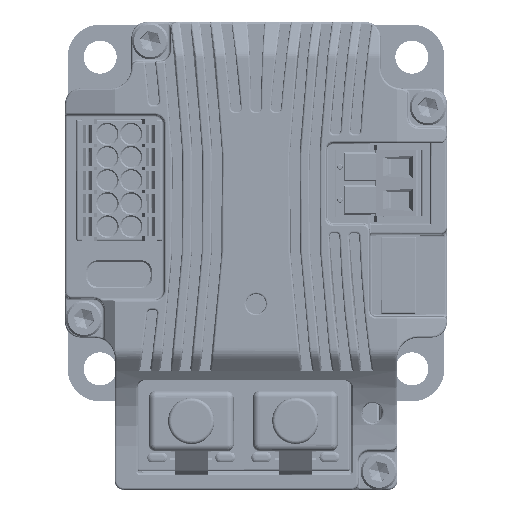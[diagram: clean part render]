
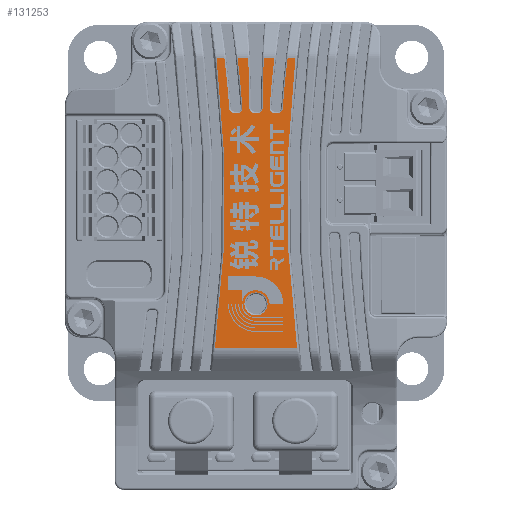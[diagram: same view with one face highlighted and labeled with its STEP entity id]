
A CAD part, front view. The second image highlights one B-rep face of the part: STEP entity #131253.
In plain terms, the highlighted planar face has unit normal (0, 1, 0).
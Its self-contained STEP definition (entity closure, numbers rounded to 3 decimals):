
#107804=DIRECTION('',(1.,0.,
0.));
#107805=VECTOR('',#107804,12.433);
#107806=CARTESIAN_POINT('',(22.283,-97.5,
-48.974));
#107807=LINE('',#107806,#107805);
#107904=DIRECTION('',(-1.,0.,0.));
#107905=VECTOR('',#107904,1.181);
#107906=CARTESIAN_POINT('',(34.451,-97.5,-5.133));
#107907=LINE('',#107906,#107905);
#108036=DIRECTION('',(-1.,0.,
0.));
#108037=VECTOR('',#108036,1.592);
#108038=CARTESIAN_POINT('',(31.273,-97.5,-5.133));
#108039=LINE('',#108038,#108037);
#108148=DIRECTION('',(-1.,0.,
0.));
#108149=VECTOR('',#108148,1.592);
#108150=CARTESIAN_POINT('',(27.319,-97.5,-5.133));
#108151=LINE('',#108150,#108149);
#108291=DIRECTION('',(-1.,0.,0.));
#108292=VECTOR('',#108291,1.181);
#108293=CARTESIAN_POINT('',(23.73,-97.5,-5.133));
#108294=LINE('',#108293,#108292);
#108331=CARTESIAN_POINT('',(208.505,-97.5,-26.003));
#108332=DIRECTION('',(0.,1.,0.));
#108333=DIRECTION('',(-0.997,0.,0.075));
#108334=AXIS2_PLACEMENT_3D('',#108331,#108332,#108333);
#108339=CARTESIAN_POINT('',(207.456,-97.5,-13.153));
#108340=DIRECTION('',(0.,-1.,0.));
#108341=DIRECTION('',(-0.999,0.,0.045));
#108342=AXIS2_PLACEMENT_3D('',#108339,#108340,#108341);
#108347=CARTESIAN_POINT('',(28.751,-97.5,-12.651));
#108348=DIRECTION('',(0.,1.,0.));
#108349=DIRECTION('',(1.,0.,-0.003));
#108350=AXIS2_PLACEMENT_3D('',#108347,#108348,#108349);
#108355=CARTESIAN_POINT('',(28.249,-97.5,-12.651));
#108356=DIRECTION('',(0.,1.,0.));
#108357=DIRECTION('',(0.,0.,-1.));
#108358=AXIS2_PLACEMENT_3D('',#108355,#108356,#108357);
#108363=CARTESIAN_POINT('',(-150.456,-97.5,-13.149));
#108364=DIRECTION('',(0.,-1.,0.));
#108365=DIRECTION('',(1.,0.,0.003));
#108366=AXIS2_PLACEMENT_3D('',#108363,#108364,#108365);
#108371=CARTESIAN_POINT('',(-151.505,-97.5,-25.999));
#108372=DIRECTION('',(0.,1.,0.));
#108373=DIRECTION('',(0.993,0.,0.117));
#108374=AXIS2_PLACEMENT_3D('',#108371,#108372,#108373);
#108379=CARTESIAN_POINT('',(25.699,-97.5,-12.651));
#108380=DIRECTION('',(0.,1.,0.));
#108381=DIRECTION('',(0.997,0.,0.075));
#108382=AXIS2_PLACEMENT_3D('',#108379,#108380,#108381);
#108387=CARTESIAN_POINT('',(25.214,-97.5,-12.651));
#108388=DIRECTION('',(0.,1.,0.));
#108389=DIRECTION('',(0.,0.,-1.));
#108390=AXIS2_PLACEMENT_3D('',#108387,#108388,#108389);
#108395=CARTESIAN_POINT('',(-151.505,-97.5,-25.999));
#108396=DIRECTION('',(0.,-1.,0.));
#108397=DIRECTION('',(0.997,0.,0.075));
#108398=AXIS2_PLACEMENT_3D('',#108395,#108396,#108397);
#108403=CARTESIAN_POINT('',(-151.505,-97.5,-25.999));
#108404=DIRECTION('',(0.,1.,0.));
#108405=DIRECTION('',(0.993,0.,0.119));
#108406=AXIS2_PLACEMENT_3D('',#108403,#108404,#108405);
#108411=CARTESIAN_POINT('',(208.505,-97.5,-26.003));
#108412=DIRECTION('',(0.,1.,0.));
#108413=DIRECTION('',(-0.991,0.,-0.131));
#108414=AXIS2_PLACEMENT_3D('',#108411,#108412,#108413);
#108419=CARTESIAN_POINT('',(208.505,-97.5,-26.003));
#108420=DIRECTION('',(0.,-1.,0.));
#108421=DIRECTION('',(-0.993,0.,0.118));
#108422=AXIS2_PLACEMENT_3D('',#108419,#108420,#108421);
#108427=CARTESIAN_POINT('',(31.786,-97.5,-12.651));
#108428=DIRECTION('',(0.,1.,0.));
#108429=DIRECTION('',(0.997,0.,-0.075));
#108430=AXIS2_PLACEMENT_3D('',#108427,#108428,#108429);
#108435=CARTESIAN_POINT('',(31.301,-97.5,-12.651));
#108436=DIRECTION('',(0.,1.,0.));
#108437=DIRECTION('',(0.,0.,-1.));
#108438=AXIS2_PLACEMENT_3D('',#108435,#108436,#108437);
#108443=CARTESIAN_POINT('',(28.5,-97.5,-42.252));
#108444=DIRECTION('',(0.,1.,0.));
#108445=DIRECTION('',(0.,0.,1.));
#108446=AXIS2_PLACEMENT_3D('',#108443,#108444,#108445);
#108451=CARTESIAN_POINT('',(28.5,-97.5,-42.252));
#108452=DIRECTION('',(0.,1.,0.));
#108453=DIRECTION('',(0.,0.,-1.));
#108454=AXIS2_PLACEMENT_3D('',#108451,#108452,#108453);
#108506=DIRECTION('',(-1.,0.,0.));
#108507=VECTOR('',#108506,0.485);
#108508=CARTESIAN_POINT('',(31.786,-97.5,-13.401));
#108509=LINE('',#108508,#108507);
#108592=DIRECTION('',(-1.,0.,0.));
#108593=VECTOR('',#108592,0.501);
#108594=CARTESIAN_POINT('',(28.751,-97.5,-13.401));
#108595=LINE('',#108594,#108593);
#108678=DIRECTION('',(-1.,0.,0.));
#108679=VECTOR('',#108678,0.485);
#108680=CARTESIAN_POINT('',(25.699,-97.5,-13.401));
#108681=LINE('',#108680,#108679);
#123728=CARTESIAN_POINT('',(28.5,-97.5,-44.002));
#123729=CARTESIAN_POINT('',(28.5,-97.5,-40.502));
#123730=VERTEX_POINT('',#123728);
#123731=VERTEX_POINT('',#123729);
#123882=CARTESIAN_POINT('',(30.553,-97.5,-12.595));
#123883=CARTESIAN_POINT('',(31.273,-97.5,-5.133));
#123884=VERTEX_POINT('',#123882);
#123885=VERTEX_POINT('',#123883);
#123886=CARTESIAN_POINT('',(31.301,-97.5,-13.401));
#123887=VERTEX_POINT('',#123886);
#123888=CARTESIAN_POINT('',(31.786,-97.5,-13.401));
#123889=VERTEX_POINT('',#123888);
#123890=CARTESIAN_POINT('',(32.534,-97.5,-12.707));
#123891=VERTEX_POINT('',#123890);
#123892=CARTESIAN_POINT('',(33.27,-97.5,-5.133));
#123893=VERTEX_POINT('',#123892);
#123894=CARTESIAN_POINT('',(34.451,-97.5,-5.133));
#123895=VERTEX_POINT('',#123894);
#123896=CARTESIAN_POINT('',(34.716,-97.5,-48.974));
#123897=VERTEX_POINT('',#123896);
#123898=CARTESIAN_POINT('',(22.283,-97.5,
-48.974));
#123899=VERTEX_POINT('',#123898);
#123900=CARTESIAN_POINT('',(22.549,-97.5,-5.133));
#123901=VERTEX_POINT('',#123900);
#123902=CARTESIAN_POINT('',(23.73,-97.5,-5.133));
#123903=VERTEX_POINT('',#123902);
#123904=CARTESIAN_POINT('',(24.466,-97.5,-12.707));
#123905=VERTEX_POINT('',#123904);
#123906=CARTESIAN_POINT('',(25.214,-97.5,-13.401));
#123907=VERTEX_POINT('',#123906);
#123908=CARTESIAN_POINT('',(25.699,-97.5,-13.401));
#123909=VERTEX_POINT('',#123908);
#123910=CARTESIAN_POINT('',(26.447,-97.5,-12.594));
#123911=VERTEX_POINT('',#123910);
#123912=CARTESIAN_POINT('',(25.727,-97.5,-5.133));
#123913=VERTEX_POINT('',#123912);
#123914=CARTESIAN_POINT('',(27.319,-97.5,-5.133));
#123915=VERTEX_POINT('',#123914);
#123916=CARTESIAN_POINT('',(27.499,-97.5,-12.653));
#123917=VERTEX_POINT('',#123916);
#123918=CARTESIAN_POINT('',(28.249,-97.5,-13.401));
#123919=VERTEX_POINT('',#123918);
#123920=CARTESIAN_POINT('',(28.751,-97.5,-13.401));
#123921=VERTEX_POINT('',#123920);
#123922=CARTESIAN_POINT('',(29.501,-97.5,-12.653));
#123923=VERTEX_POINT('',#123922);
#123924=CARTESIAN_POINT('',(29.681,-97.5,-5.133));
#123925=VERTEX_POINT('',#123924);
#131202=CARTESIAN_POINT('',(28.5,-97.5,-27.053));
#131203=DIRECTION('',(0.,1.,0.));
#131204=DIRECTION('',(0.,0.,-1.));
#131205=AXIS2_PLACEMENT_3D('',#131202,#131203,#131204);
#131206=PLANE('',#131205);
#131208=ORIENTED_EDGE('',*,*,#131207,.T.);
#131209=ORIENTED_EDGE('',*,*,#130803,.T.);
#131211=ORIENTED_EDGE('',*,*,#131210,.T.);
#131213=ORIENTED_EDGE('',*,*,#131212,.T.);
#131215=ORIENTED_EDGE('',*,*,#131214,.T.);
#131217=ORIENTED_EDGE('',*,*,#131216,.T.);
#131219=ORIENTED_EDGE('',*,*,#131218,.T.);
#131220=ORIENTED_EDGE('',*,*,#130971,.T.);
#131222=ORIENTED_EDGE('',*,*,#131221,.T.);
#131224=ORIENTED_EDGE('',*,*,#131223,.T.);
#131226=ORIENTED_EDGE('',*,*,#131225,.T.);
#131228=ORIENTED_EDGE('',*,*,#131227,.T.);
#131230=ORIENTED_EDGE('',*,*,#131229,.T.);
#131231=ORIENTED_EDGE('',*,*,#131143,.T.);
#131232=ORIENTED_EDGE('',*,*,#131194,.T.);
#131233=ORIENTED_EDGE('',*,*,#130447,.T.);
#131235=ORIENTED_EDGE('',*,*,#131234,.T.);
#131236=ORIENTED_EDGE('',*,*,#130631,.T.);
#131238=ORIENTED_EDGE('',*,*,#131237,.T.);
#131240=ORIENTED_EDGE('',*,*,#131239,.T.);
#131242=ORIENTED_EDGE('',*,*,#131241,.T.);
#131244=ORIENTED_EDGE('',*,*,#131243,.T.);
#131245=EDGE_LOOP('',(#131208,#131209,#131211,#131213,#131215,#131217,#131219,
#131220,#131222,#131224,#131226,#131228,#131230,#131231,#131232,#131233,#131235,
#131236,#131238,#131240,#131242,#131244));
#131246=FACE_OUTER_BOUND('',#131245,.F.);
#131248=ORIENTED_EDGE('',*,*,#131247,.T.);
#131250=ORIENTED_EDGE('',*,*,#131249,.T.);
#131251=EDGE_LOOP('',(#131248,#131250));
#131252=FACE_BOUND('',#131251,.F.);
#131253=ADVANCED_FACE('',(#131246,#131252),#131206,.T.);
#108335=CIRCLE('',#108334,178.456);
#108343=CIRCLE('',#108342,177.956);
#108351=CIRCLE('',#108350,0.75);
#108359=CIRCLE('',#108358,0.75);
#108367=CIRCLE('',#108366,177.956);
#108375=CIRCLE('',#108374,178.456);
#108383=CIRCLE('',#108382,0.75);
#108391=CIRCLE('',#108390,0.75);
#108399=CIRCLE('',#108398,176.473);
#108407=CIRCLE('',#108406,175.3);
#108415=CIRCLE('',#108414,175.3);
#108423=CIRCLE('',#108422,176.473);
#108431=CIRCLE('',#108430,0.75);
#108439=CIRCLE('',#108438,0.75);
#108447=CIRCLE('',#108446,1.75);
#108455=CIRCLE('',#108454,1.75);
#130447=EDGE_CURVE('',#123899,#123897,#107807,.T.);
#130631=EDGE_CURVE('',#123895,#123893,#107907,.T.);
#130803=EDGE_CURVE('',#123885,#123925,#108039,.T.);
#130971=EDGE_CURVE('',#123915,#123913,#108151,.T.);
#131143=EDGE_CURVE('',#123903,#123901,#108294,.T.);
#131194=EDGE_CURVE('',#123901,#123899,#108407,.T.);
#131207=EDGE_CURVE('',#123884,#123885,#108335,.T.);
#131210=EDGE_CURVE('',#123925,#123923,#108343,.T.);
#131212=EDGE_CURVE('',#123923,#123921,#108351,.T.);
#131214=EDGE_CURVE('',#123921,#123919,#108595,.T.);
#131216=EDGE_CURVE('',#123919,#123917,#108359,.T.);
#131218=EDGE_CURVE('',#123917,#123915,#108367,.T.);
#131221=EDGE_CURVE('',#123913,#123911,#108375,.T.);
#131223=EDGE_CURVE('',#123911,#123909,#108383,.T.);
#131225=EDGE_CURVE('',#123909,#123907,#108681,.T.);
#131227=EDGE_CURVE('',#123907,#123905,#108391,.T.);
#131229=EDGE_CURVE('',#123905,#123903,#108399,.T.);
#131234=EDGE_CURVE('',#123897,#123895,#108415,.T.);
#131237=EDGE_CURVE('',#123893,#123891,#108423,.T.);
#131239=EDGE_CURVE('',#123891,#123889,#108431,.T.);
#131241=EDGE_CURVE('',#123889,#123887,#108509,.T.);
#131243=EDGE_CURVE('',#123887,#123884,#108439,.T.);
#131247=EDGE_CURVE('',#123731,#123730,#108447,.T.);
#131249=EDGE_CURVE('',#123730,#123731,#108455,.T.);
